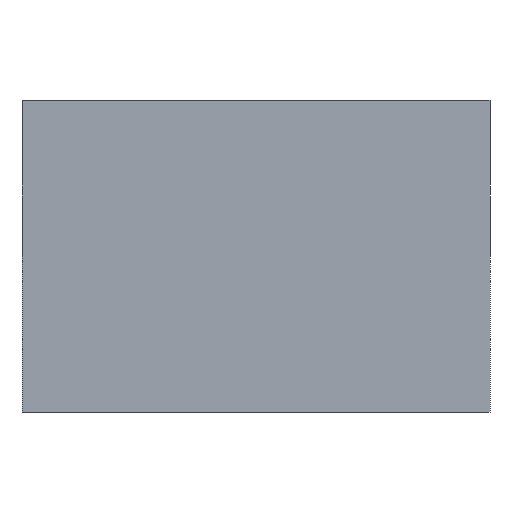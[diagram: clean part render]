
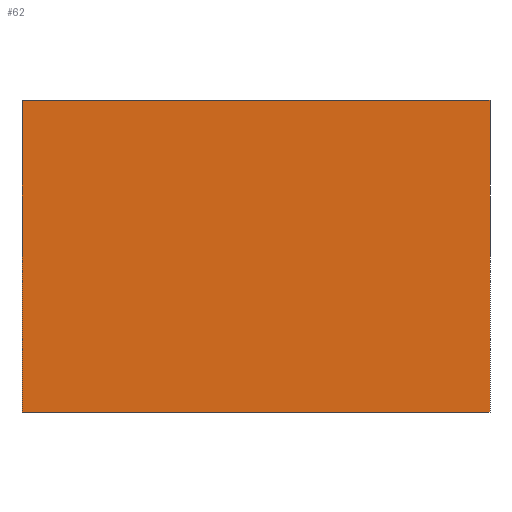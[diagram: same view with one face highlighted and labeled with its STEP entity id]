
A CAD part, front view. The second image highlights one B-rep face of the part: STEP entity #62.
In plain terms, the highlighted planar face has unit normal (0, -1, 0).
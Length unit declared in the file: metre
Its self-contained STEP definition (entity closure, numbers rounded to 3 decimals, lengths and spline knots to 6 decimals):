
#62 = ADVANCED_FACE( '', ( #85 ), #86, .F. );
#85 = FACE_OUTER_BOUND( '', #129, .T. );
#86 = PLANE( '', #130 );
#129 = EDGE_LOOP( '', ( #183, #184, #185, #186 ) );
#130 = AXIS2_PLACEMENT_3D( '', #187, #188, #189 );
#183 = ORIENTED_EDGE( '', *, *, #316, .T. );
#184 = ORIENTED_EDGE( '', *, *, #317, .F. );
#185 = ORIENTED_EDGE( '', *, *, #313, .F. );
#186 = ORIENTED_EDGE( '', *, *, #310, .T. );
#187 = CARTESIAN_POINT( '', ( 0., 0., 0.02 ) );
#188 = DIRECTION( '', ( 0., 1., 0. ) );
#189 = DIRECTION( '', ( 0., 0., 1. ) );
#310 = EDGE_CURVE( '', #352, #350, #353, .T. );
#313 = EDGE_CURVE( '', #352, #357, #358, .T. );
#316 = EDGE_CURVE( '', #350, #362, #363, .T. );
#317 = EDGE_CURVE( '', #357, #362, #364, .T. );
#350 = VERTEX_POINT( '', #418 );
#352 = VERTEX_POINT( '', #421 );
#353 = LINE( '', #422, #423 );
#357 = VERTEX_POINT( '', #429 );
#358 = LINE( '', #430, #431 );
#362 = VERTEX_POINT( '', #437 );
#363 = LINE( '', #438, #439 );
#364 = LINE( '', #440, #441 );
#418 = CARTESIAN_POINT( '', ( 0., 0., 0. ) );
#421 = CARTESIAN_POINT( '', ( 0., 0., 0.02 ) );
#422 = CARTESIAN_POINT( '', ( 0., 0., 0.02 ) );
#423 = VECTOR( '', #522, 1. );
#429 = CARTESIAN_POINT( '', ( 0.03, 0., 0.02 ) );
#430 = CARTESIAN_POINT( '', ( 0., 0., 0.02 ) );
#431 = VECTOR( '', #525, 1. );
#437 = CARTESIAN_POINT( '', ( 0.03, 0., 0. ) );
#438 = CARTESIAN_POINT( '', ( 0., 0., 0. ) );
#439 = VECTOR( '', #528, 1. );
#440 = CARTESIAN_POINT( '', ( 0.03, 0., 0.02 ) );
#441 = VECTOR( '', #529, 1. );
#522 = DIRECTION( '', ( 0., 0., -1. ) );
#525 = DIRECTION( '', ( 1., 0., 0. ) );
#528 = DIRECTION( '', ( 1., 0., 0. ) );
#529 = DIRECTION( '', ( 0., 0., -1. ) );
